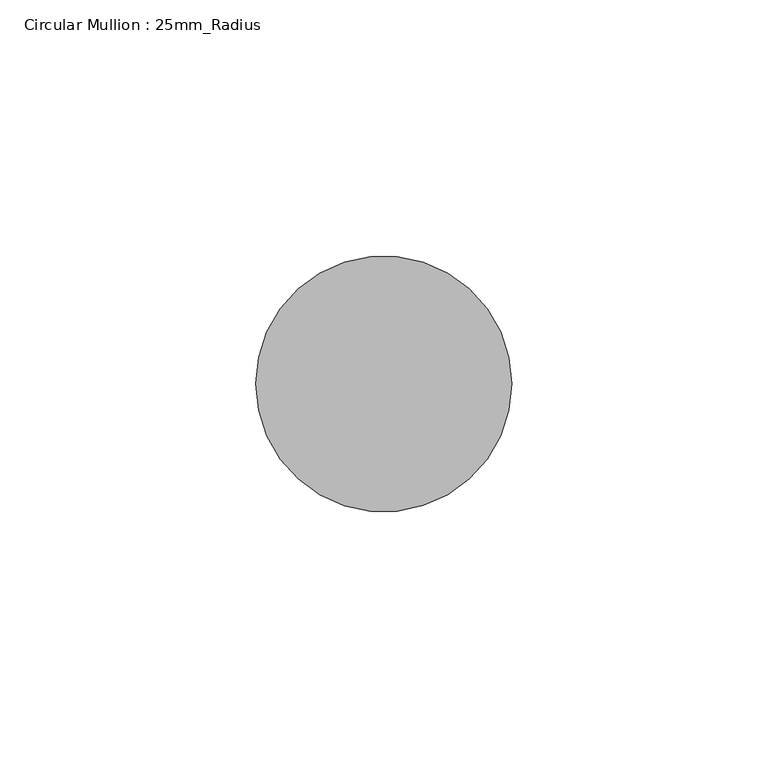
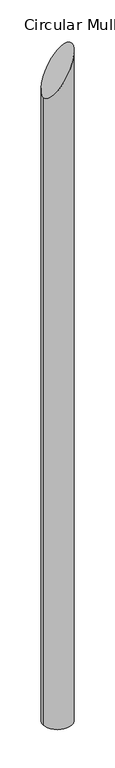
"""IFC4 building model written with IfcOpenShell, lengths in millimetres: member geometry, Circular Mullion : 25mm_Radius."""

from ifc_helpers import new_model, si_unit, frame, origin, place, context, project, spatial, circle_curve, ellipse_curve, source, transform, mapped, element, save
from ifc_brep_helpers import plane_surface, cylinder_surface, advanced_brep


def circular_mullion_25mm_radius_2ba682a9(model_context):
    return source(origin(), model_context, "Body", "AdvancedBrep", [
        advanced_brep(
        [(-50.0, 0.0, -82.416913), (0.0, 0.0, 0.0), (0.0, 0.0, -1231.6099153), (-50.0, 0.0, -1231.6099153)],
        [
            (0, 1, ellipse_curve(frame((-25.0, 0.0, -41.2084565), z_axis=(0.8549662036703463, 0.0, -0.5186837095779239), x_axis=(0.5186837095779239, 0.0, 0.8549662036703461)), 48.1989304, 25.0)),
            (1, 2),
            (2, 3, circle_curve(frame((-25.0, 0.0, -1231.6099153), z_axis=(0.0, 0.0, 1.0), x_axis=(1.0, 0.0, 0.0)), 25.0)),
            (3, 0),
            (1, 0, ellipse_curve(frame((-25.0, 0.0, -41.2084565), z_axis=(0.8549662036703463, 0.0, -0.5186837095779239), x_axis=(0.5186837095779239, 0.0, 0.8549662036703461)), 48.1989304, 25.0)),
            (3, 2, circle_curve(frame((-25.0, 0.0, -1231.6099153), z_axis=(0.0, 0.0, 1.0), x_axis=(1.0, 0.0, 0.0)), 25.0)),
        ],
        [
            cylinder_surface(frame((-25.0, 0.0, 0.0), z_axis=(0.0, 0.0, 1.0), x_axis=(1.0, 0.0, 0.0)), 25.0),
            plane_surface(frame((0.0, -304.8, 0.0), z_axis=(-0.8549662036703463, 0.0, 0.5186837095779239), x_axis=(-0.5186837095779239, 0.0, -0.8549662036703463))),
            plane_surface(frame((-304.8, 0.0, -1231.6099153), z_axis=(0.0, 0.0, -1.0), x_axis=(0.0, 1.0, 0.0))),
        ],
        [
            (0, [[1, 2, 3, 4]]),
            (0, [[5, -4, 6, -2]]),
            (1, [[-1, -5]]),
            (2, [[-6, -3]]),
        ],
    ),
    ])


if __name__ == "__main__":
    model = new_model("IFC4")
    model_context = context("Model", 3, world=origin())
    ifc_project = project(units=[si_unit("LENGTHUNIT", "METRE", prefix="MILLI")], contexts=[model_context])
    site = spatial("IfcSite", under=ifc_project)
    building = spatial("IfcBuilding", under=site)
    placement = place(None, origin())
    circular_mullion_25mm_radius_shape = circular_mullion_25mm_radius_2ba682a9(model_context)
    element("IfcMember", 1, ObjectType="Circular Mullion : 25mm_Radius", at=placement, inside=building, context=model_context, shape_type="MappedRepresentation", body=[
        mapped(circular_mullion_25mm_radius_shape, transform((0.0, 0.0, 0.0), x_axis=(1.0, 0.0, 0.0), y_axis=(0.0, 1.0, 0.0), z_axis=(0.0, 0.0, 1.0))),
    ])
    save(model, "model.ifc")
